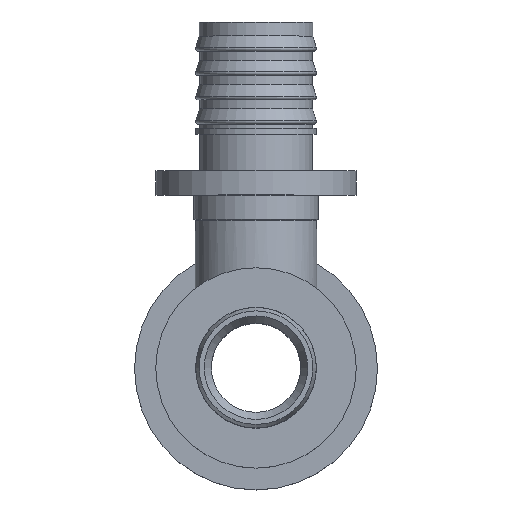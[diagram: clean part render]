
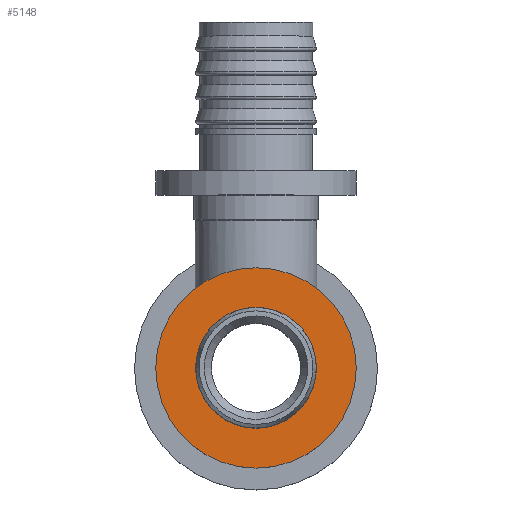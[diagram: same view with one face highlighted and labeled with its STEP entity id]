
A CAD part, top view. The second image highlights one B-rep face of the part: STEP entity #5148.
In plain terms, the highlighted planar face has unit normal (0, 0, 1).
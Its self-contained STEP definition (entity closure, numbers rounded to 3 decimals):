
#74=FACE_BOUND('',#1266,.T.);
#234=CIRCLE('',#5483,16.5);
#235=CIRCLE('',#5484,16.5);
#236=CIRCLE('',#5486,9.313);
#237=CIRCLE('',#5487,9.313);
#961=FACE_OUTER_BOUND('',#1265,.T.);
#1265=EDGE_LOOP('',(#4474,#4475));
#1266=EDGE_LOOP('',(#4476,#4477));
#2362=VERTEX_POINT('',#11341);
#2363=VERTEX_POINT('',#11342);
#2364=VERTEX_POINT('',#11347);
#2365=VERTEX_POINT('',#11348);
#3101=EDGE_CURVE('',#2362,#2363,#234,.T.);
#3102=EDGE_CURVE('',#2363,#2362,#235,.T.);
#3104=EDGE_CURVE('',#2364,#2365,#236,.T.);
#3105=EDGE_CURVE('',#2365,#2364,#237,.T.);
#4474=ORIENTED_EDGE('',*,*,#3101,.T.);
#4475=ORIENTED_EDGE('',*,*,#3102,.T.);
#4476=ORIENTED_EDGE('',*,*,#3104,.F.);
#4477=ORIENTED_EDGE('',*,*,#3105,.F.);
#4909=PLANE('',#5485);
#5148=ADVANCED_FACE('',(#961,#74),#4909,.T.);
#5483=AXIS2_PLACEMENT_3D('',#11343,#6427,#6428);
#5484=AXIS2_PLACEMENT_3D('',#11344,#6429,#6430);
#5485=AXIS2_PLACEMENT_3D('',#11346,#6432,#6433);
#5486=AXIS2_PLACEMENT_3D('',#11349,#6434,#6435);
#5487=AXIS2_PLACEMENT_3D('',#11350,#6436,#6437);
#6427=DIRECTION('center_axis',(0.,0.,1.));
#6428=DIRECTION('ref_axis',(1.,0.,0.));
#6429=DIRECTION('center_axis',(0.,0.,1.));
#6430=DIRECTION('ref_axis',(1.,0.,0.));
#6432=DIRECTION('center_axis',(0.,0.,1.));
#6433=DIRECTION('ref_axis',(1.,0.,0.));
#6434=DIRECTION('center_axis',(0.,0.,1.));
#6435=DIRECTION('ref_axis',(1.,0.,0.));
#6436=DIRECTION('center_axis',(0.,0.,1.));
#6437=DIRECTION('ref_axis',(1.,0.,0.));
#11341=CARTESIAN_POINT('',(0.,-16.5,90.621));
#11342=CARTESIAN_POINT('',(0.,16.5,90.621));
#11343=CARTESIAN_POINT('Origin',(0.,0.,90.621));
#11344=CARTESIAN_POINT('Origin',(0.,0.,90.621));
#11346=CARTESIAN_POINT('Origin',(0.,-9.313,90.621));
#11347=CARTESIAN_POINT('',(0.,-9.313,90.621));
#11348=CARTESIAN_POINT('',(0.,9.313,90.621));
#11349=CARTESIAN_POINT('Origin',(0.,0.,90.621));
#11350=CARTESIAN_POINT('Origin',(0.,0.,90.621));
